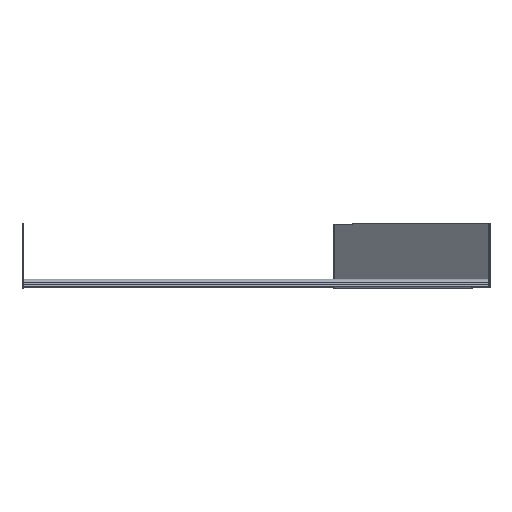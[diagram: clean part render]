
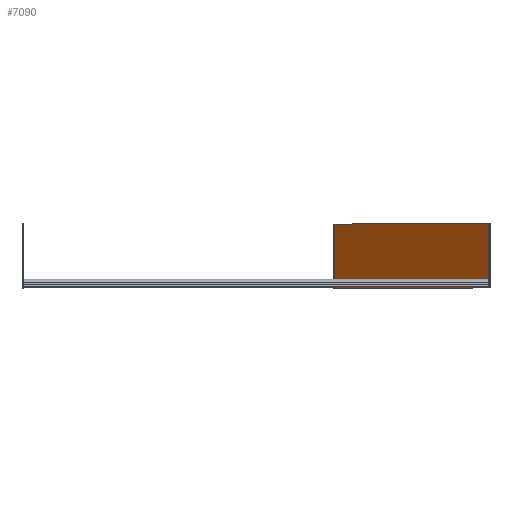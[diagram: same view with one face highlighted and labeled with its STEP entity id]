
A CAD part, top view. The second image highlights one B-rep face of the part: STEP entity #7090.
In plain terms, the highlighted planar face has unit normal (-0.682, 0, 0.731).
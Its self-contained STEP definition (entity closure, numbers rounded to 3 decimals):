
#70 = VECTOR ( 'NONE', #2350, 1000. ) ;
#115 = CARTESIAN_POINT ( 'NONE',  ( 301.112, 0., -278.962 ) ) ;
#217 = CARTESIAN_POINT ( 'NONE',  ( 600., 124., 0. ) ) ;
#962 = EDGE_CURVE ( 'NONE', #2304, #12950, #12730, .T. ) ;
#2035 = DIRECTION ( 'NONE',  ( -0.731, 0., -0.682 ) ) ;
#2085 = LINE ( 'NONE', #7336, #2355 ) ;
#2304 = VERTEX_POINT ( 'NONE', #8995 ) ;
#2350 = DIRECTION ( 'NONE',  ( 0., 1., 0. ) ) ;
#2355 = VECTOR ( 'NONE', #10588, 1000. ) ;
#2373 = VECTOR ( 'NONE', #2035, 1000. ) ;
#3549 = CARTESIAN_POINT ( 'NONE',  ( 599.523, 124., -0.445 ) ) ;
#4193 = EDGE_CURVE ( 'NONE', #2304, #5166, #2085, .T. ) ;
#4248 = CARTESIAN_POINT ( 'NONE',  ( 599.523, 0., -0.445 ) ) ;
#5112 = ORIENTED_EDGE ( 'NONE', *, *, #8911, .T. ) ;
#5166 = VERTEX_POINT ( 'NONE', #115 ) ;
#5678 = PLANE ( 'NONE',  #6074 ) ;
#6047 = EDGE_CURVE ( 'NONE', #5166, #8022, #8667, .T. ) ;
#6074 = AXIS2_PLACEMENT_3D ( 'NONE', #217, #9928, #6889 ) ;
#6510 = LINE ( 'NONE', #6579, #2373 ) ;
#6579 = CARTESIAN_POINT ( 'NONE',  ( 600., 124., 0. ) ) ;
#6889 = DIRECTION ( 'NONE',  ( 0.731, 0., 0.682 ) ) ;
#7090 = ADVANCED_FACE ( 'NONE', ( #13366 ), #5678, .T. ) ;
#7336 = CARTESIAN_POINT ( 'NONE',  ( 600., 0., 0. ) ) ;
#7682 = CARTESIAN_POINT ( 'NONE',  ( 301.112, 0., -278.962 ) ) ;
#8022 = VERTEX_POINT ( 'NONE', #12687 ) ;
#8434 = DIRECTION ( 'NONE',  ( 0., 1., 0. ) ) ;
#8667 = LINE ( 'NONE', #7682, #70 ) ;
#8911 = EDGE_CURVE ( 'NONE', #12950, #8022, #6510, .T. ) ;
#8995 = CARTESIAN_POINT ( 'NONE',  ( 599.523, 0., -0.445 ) ) ;
#9065 = VECTOR ( 'NONE', #8434, 1000. ) ;
#9258 = ORIENTED_EDGE ( 'NONE', *, *, #6047, .F. ) ;
#9928 = DIRECTION ( 'NONE',  ( -0.682, 0., 0.731 ) ) ;
#10057 = ORIENTED_EDGE ( 'NONE', *, *, #962, .T. ) ;
#10588 = DIRECTION ( 'NONE',  ( -0.731, 0., -0.682 ) ) ;
#10879 = ORIENTED_EDGE ( 'NONE', *, *, #4193, .F. ) ;
#11980 = EDGE_LOOP ( 'NONE', ( #9258, #10879, #10057, #5112 ) ) ;
#12687 = CARTESIAN_POINT ( 'NONE',  ( 301.112, 124., -278.962 ) ) ;
#12730 = LINE ( 'NONE', #4248, #9065 ) ;
#12950 = VERTEX_POINT ( 'NONE', #3549 ) ;
#13366 = FACE_OUTER_BOUND ( 'NONE', #11980, .T. ) ;
